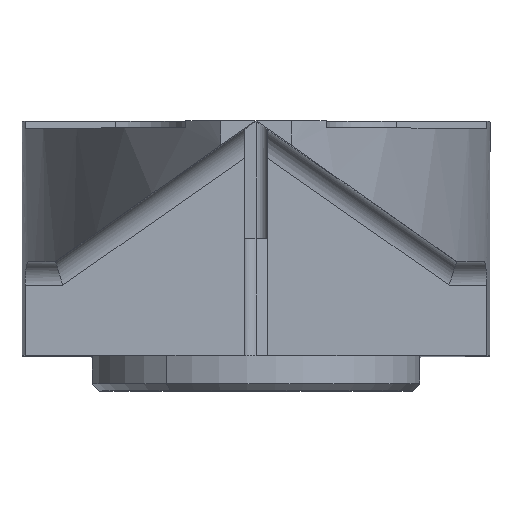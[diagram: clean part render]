
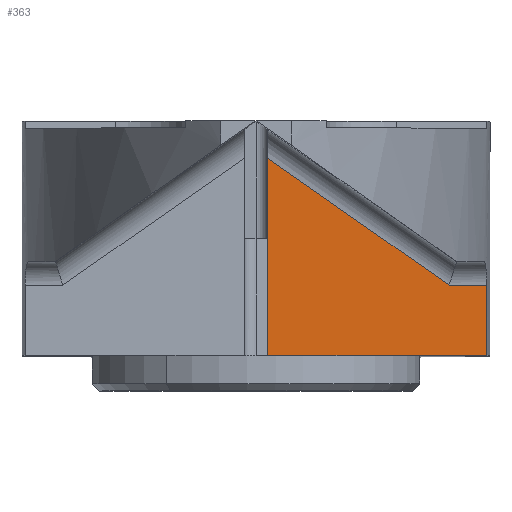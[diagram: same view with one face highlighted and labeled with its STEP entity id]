
A CAD part, top view. The second image highlights one B-rep face of the part: STEP entity #363.
In plain terms, the highlighted planar face has unit normal (0, 0, 1).
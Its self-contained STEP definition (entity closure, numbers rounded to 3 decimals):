
#111 = ORIENTED_EDGE ( 'NONE', *, *, #625, .F. ) ;
#137 = VECTOR ( 'NONE', #3960, 1000. ) ;
#239 = EDGE_CURVE ( 'NONE', #1239, #3095, #4429, .T. ) ;
#332 = VERTEX_POINT ( 'NONE', #4215 ) ;
#363 = ADVANCED_FACE ( 'NONE', ( #3468 ), #676, .T. ) ;
#476 = VERTEX_POINT ( 'NONE', #692 ) ;
#625 = EDGE_CURVE ( 'NONE', #3095, #332, #1204, .T. ) ;
#676 = PLANE ( 'NONE',  #2239 ) ;
#692 = CARTESIAN_POINT ( 'NONE',  ( 9.857, 3., 13. ) ) ;
#718 = CARTESIAN_POINT ( 'NONE',  ( 9.857, 5., 13. ) ) ;
#922 = DIRECTION ( 'NONE',  ( -1., 0., 0. ) ) ;
#956 = DIRECTION ( 'NONE',  ( 1., 0., 0. ) ) ;
#1049 = CARTESIAN_POINT ( 'NONE',  ( 5.221, 0., 13. ) ) ;
#1147 = DIRECTION ( 'NONE',  ( 0., 1., 0. ) ) ;
#1179 = DIRECTION ( 'NONE',  ( 0., 0., 1. ) ) ;
#1204 = LINE ( 'NONE', #5192, #5093 ) ;
#1239 = VERTEX_POINT ( 'NONE', #3932 ) ;
#1277 = ORIENTED_EDGE ( 'NONE', *, *, #239, .F. ) ;
#1368 = DIRECTION ( 'NONE',  ( -0.819, 0.574, 0. ) ) ;
#1861 = ORIENTED_EDGE ( 'NONE', *, *, #5058, .T. ) ;
#1943 = CARTESIAN_POINT ( 'NONE',  ( 0.5, 0., 13. ) ) ;
#1975 = CARTESIAN_POINT ( 'NONE',  ( 8.254, 3., 13. ) ) ;
#2239 = AXIS2_PLACEMENT_3D ( 'NONE', #5153, #1179, #956 ) ;
#2814 = VECTOR ( 'NONE', #1147, 1000. ) ;
#3084 = VECTOR ( 'NONE', #1368, 1000. ) ;
#3095 = VERTEX_POINT ( 'NONE', #1943 ) ;
#3218 = ORIENTED_EDGE ( 'NONE', *, *, #4285, .T. ) ;
#3468 = FACE_OUTER_BOUND ( 'NONE', #3990, .T. ) ;
#3555 = CARTESIAN_POINT ( 'NONE',  ( 9.055, 3., 13. ) ) ;
#3871 = VERTEX_POINT ( 'NONE', #1975 ) ;
#3902 = LINE ( 'NONE', #718, #2814 ) ;
#3932 = CARTESIAN_POINT ( 'NONE',  ( 9.857, 0., 13. ) ) ;
#3960 = DIRECTION ( 'NONE',  ( 1., 0., 0. ) ) ;
#3990 = EDGE_LOOP ( 'NONE', ( #3218, #111, #1277, #1861, #5134 ) ) ;
#4170 = LINE ( 'NONE', #5090, #3084 ) ;
#4215 = CARTESIAN_POINT ( 'NONE',  ( 0.5, 8.429, 13. ) ) ;
#4285 = EDGE_CURVE ( 'NONE', #3871, #332, #4170, .T. ) ;
#4429 = LINE ( 'NONE', #1049, #4577 ) ;
#4571 = LINE ( 'NONE', #3555, #137 ) ;
#4577 = VECTOR ( 'NONE', #922, 1000. ) ;
#4957 = EDGE_CURVE ( 'NONE', #3871, #476, #4571, .T. ) ;
#5058 = EDGE_CURVE ( 'NONE', #1239, #476, #3902, .T. ) ;
#5090 = CARTESIAN_POINT ( 'NONE',  ( 8.254, 3., 13. ) ) ;
#5093 = VECTOR ( 'NONE', #5320, 1000. ) ;
#5134 = ORIENTED_EDGE ( 'NONE', *, *, #4957, .F. ) ;
#5153 = CARTESIAN_POINT ( 'NONE',  ( 0.5, 0., 13. ) ) ;
#5192 = CARTESIAN_POINT ( 'NONE',  ( 0.5, 5., 13. ) ) ;
#5320 = DIRECTION ( 'NONE',  ( 0., 1., 0. ) ) ;
